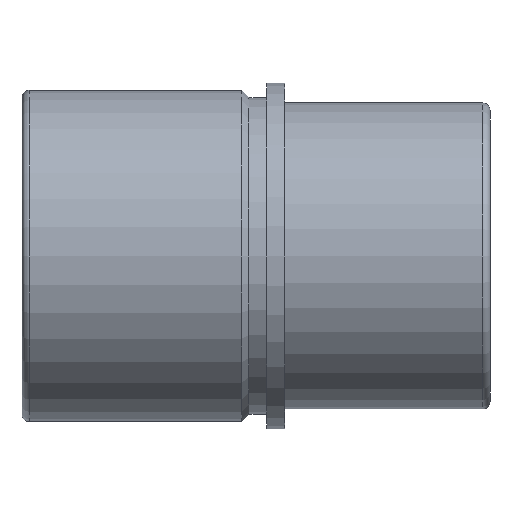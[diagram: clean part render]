
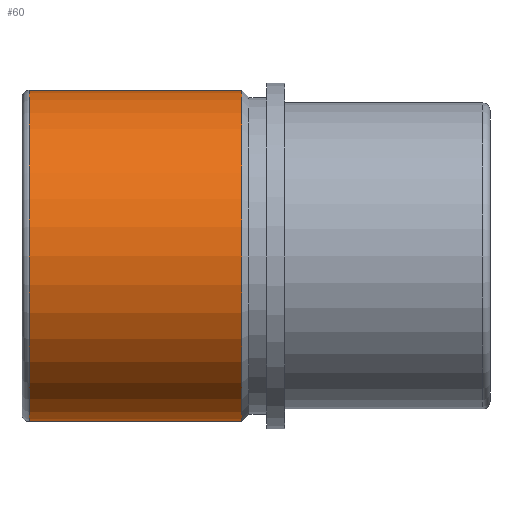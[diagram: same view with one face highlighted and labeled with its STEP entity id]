
A CAD part, front view. The second image highlights one B-rep face of the part: STEP entity #60.
In plain terms, the highlighted cylindrical face has radius 46 mm (diameter 92 mm), a full revolution.
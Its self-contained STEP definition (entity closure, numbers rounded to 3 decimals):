
#60 = ADVANCED_FACE( '', ( #127, #128 ), #129, .T. );
#127 = FACE_OUTER_BOUND( '', #190, .T. );
#128 = FACE_OUTER_BOUND( '', #191, .T. );
#129 = CYLINDRICAL_SURFACE( '', #192, 46. );
#190 = EDGE_LOOP( '', ( #269 ) );
#191 = EDGE_LOOP( '', ( #270 ) );
#192 = AXIS2_PLACEMENT_3D( '', #271, #272, #273 );
#269 = ORIENTED_EDGE( '', *, *, #306, .T. );
#270 = ORIENTED_EDGE( '', *, *, #304, .F. );
#271 = CARTESIAN_POINT( '', ( 57., 0., 0. ) );
#272 = DIRECTION( '', ( -1., 0., 0. ) );
#273 = DIRECTION( '', ( 0., 0., -1. ) );
#304 = EDGE_CURVE( '', #342, #342, #343, .T. );
#306 = EDGE_CURVE( '', #345, #345, #346, .T. );
#342 = VERTEX_POINT( '', #384 );
#343 = CIRCLE( '', #385, 46. );
#345 = VERTEX_POINT( '', #387 );
#346 = CIRCLE( '', #388, 46. );
#384 = CARTESIAN_POINT( '', ( -12., 0., -46. ) );
#385 = AXIS2_PLACEMENT_3D( '', #428, #429, #430 );
#387 = CARTESIAN_POINT( '', ( -71., 0., -46. ) );
#388 = AXIS2_PLACEMENT_3D( '', #431, #432, #433 );
#428 = CARTESIAN_POINT( '', ( -12., 0., 0. ) );
#429 = DIRECTION( '', ( 1., 0., 0. ) );
#430 = DIRECTION( '', ( 0., 0., -1. ) );
#431 = CARTESIAN_POINT( '', ( -71., 0., 0. ) );
#432 = DIRECTION( '', ( 1., 0., 0. ) );
#433 = DIRECTION( '', ( 0., 0., -1. ) );
